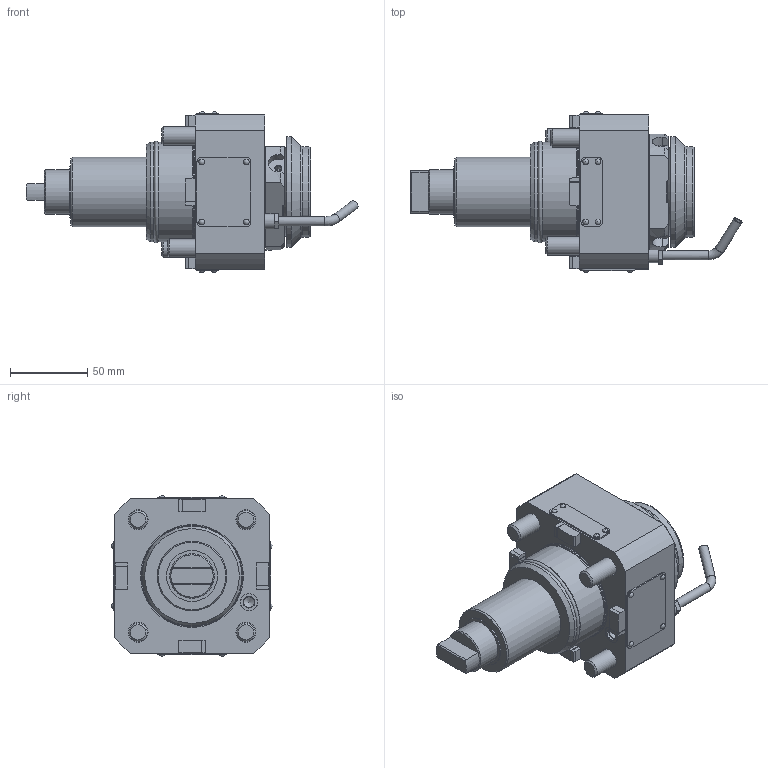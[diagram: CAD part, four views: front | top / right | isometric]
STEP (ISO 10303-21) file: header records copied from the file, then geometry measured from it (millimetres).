
FILE_DESCRIPTION(/* description */ (''),/* implementation_level */ '2;1');
FILE_NAME(/* name */ '188953',/* time_stamp */ '2024-03-01T09:41:14+01:00',/* author */ (''),/* organization */ (''),/* preprocessor_version */ 'ST-DEVELOPER v16.5',/* originating_system */ 'HiCAD 2017 2201.0 Build 268',/* authorisation */ '');
FILE_SCHEMA (('AUTOMOTIVE_DESIGN { 1 0 10303 214 1 1 1 1 }'));
Length unit declared in the file: millimetre
Products named in the file (2): Root; Teil
Assembly tree (1 placements, depth 2):
  Root
    Teil
Bounding box: 215.53 x 104.58 x 104.6 mm (x, y, z)
Volume: 694870 mm3; surface area: 105483.5 mm2
Topology: 2 solids, 22 shells, 428 faces, 927 edges, 604 vertices
Faces by surface type: plane 232, cylinder 106, cone 44, torus 30, sphere 16
Full cylindrical faces by diameter (mm): 2.2 x4, 2.3 x12, 4 x5, 6 x2, 7 x1, 7.65 x1, 10 x2, 11.01 x1, 11.1 x1, 12 x4, 12.5 x2, 13 x4, 18 x5, 20 x4, 20.1 x1, 21 x2, 22 x2, 23 x2, 29 x1, 33 x1, 36 x1, 45 x1, 45.5 x1, 46 x1, 46.15 x1, 48 x2, 48.3 x1, 50 x1, 52.623 x1, 53 x1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
Entity records: 20605 total; most frequent: CARTESIAN_POINT 2843, DIRECTION 1889, PRESENTATION_STYLE_ASSIGNMENT 1723, OVER_RIDING_STYLED_ITEM 1722, COLOUR_RGB 1450, DRAUGHTING_PRE_DEFINED_CURVE_FONT 1446, CURVE_STYLE 1446, ORIENTED_EDGE 1446
